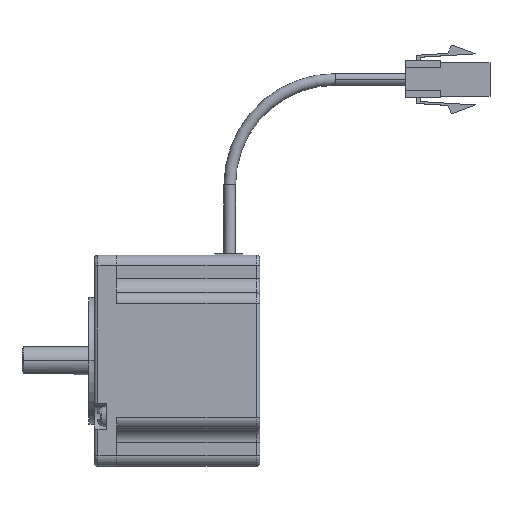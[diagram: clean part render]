
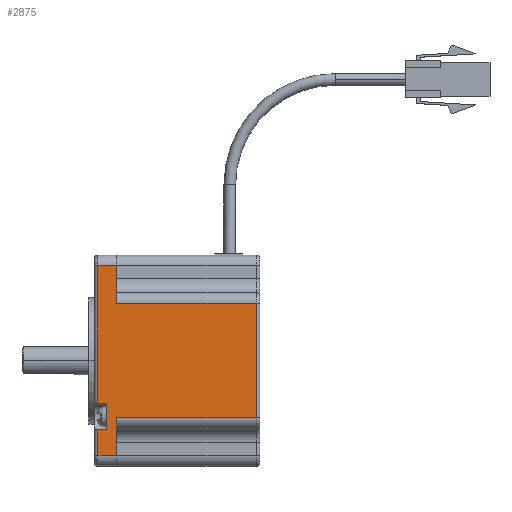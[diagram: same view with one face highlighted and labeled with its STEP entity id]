
A CAD part, top view. The second image highlights one B-rep face of the part: STEP entity #2875.
In plain terms, the highlighted planar face has unit normal (0, 0, 1) as drawn and (1, 0, 0) by its records, which use the part's own axes.
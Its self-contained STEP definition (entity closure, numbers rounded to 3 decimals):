
#20 = CARTESIAN_POINT ( 'NONE',  ( 92.176, 12.692, -211. ) ) ;
#136 = EDGE_CURVE ( 'NONE', #434, #3131, #8315, .T. ) ;
#434 = VERTEX_POINT ( 'NONE', #20 ) ;
#467 = CARTESIAN_POINT ( 'NONE',  ( 92.176, -44.308, -208.5 ) ) ;
#473 = EDGE_CURVE ( 'NONE', #5167, #6616, #7940, .T. ) ;
#612 = EDGE_CURVE ( 'NONE', #9447, #5744, #2513, .T. ) ;
#1029 = EDGE_CURVE ( 'NONE', #5167, #9447, #5636, .T. ) ;
#1043 = EDGE_CURVE ( 'NONE', #9489, #2485, #7212, .T. ) ;
#1231 = AXIS2_PLACEMENT_3D ( 'NONE', #9494, #9826, #9401 ) ;
#1234 = DIRECTION ( 'NONE',  ( 0., 1., 0. ) ) ;
#1449 = CARTESIAN_POINT ( 'NONE',  ( 92.176, -2.108, -208.5 ) ) ;
#1498 = LINE ( 'NONE', #467, #9602 ) ;
#1621 = CARTESIAN_POINT ( 'NONE',  ( 92.176, -44.308, -211. ) ) ;
#1696 = DIRECTION ( 'NONE',  ( 0., 1., 0. ) ) ;
#1908 = CARTESIAN_POINT ( 'NONE',  ( 92.176, -30.608, -205.7 ) ) ;
#1974 = CARTESIAN_POINT ( 'NONE',  ( 92.176, -41.308, -211. ) ) ;
#2421 = CARTESIAN_POINT ( 'NONE',  ( 92.176, 12.692, -205.7 ) ) ;
#2485 = VERTEX_POINT ( 'NONE', #1449 ) ;
#2513 = LINE ( 'NONE', #4706, #4405 ) ;
#2521 = LINE ( 'NONE', #6020, #6501 ) ;
#2537 = LINE ( 'NONE', #5480, #8331 ) ;
#2646 = VERTEX_POINT ( 'NONE', #3712 ) ;
#2875 = ADVANCED_FACE ( 'NONE', ( #10023 ), #7461, .T. ) ;
#3062 = ORIENTED_EDGE ( 'NONE', *, *, #1029, .F. ) ;
#3131 = VERTEX_POINT ( 'NONE', #2421 ) ;
#3214 = DIRECTION ( 'NONE',  ( 0., 0., -1. ) ) ;
#3245 = ORIENTED_EDGE ( 'NONE', *, *, #3978, .T. ) ;
#3533 = DIRECTION ( 'NONE',  ( 0., 0., -1. ) ) ;
#3606 = VERTEX_POINT ( 'NONE', #9882 ) ;
#3712 = CARTESIAN_POINT ( 'NONE',  ( 92.176, 5.292, -211. ) ) ;
#3770 = ORIENTED_EDGE ( 'NONE', *, *, #473, .T. ) ;
#3799 = VECTOR ( 'NONE', #8420, 1000. ) ;
#3803 = VECTOR ( 'NONE', #8705, 1000. ) ;
#3966 = ORIENTED_EDGE ( 'NONE', *, *, #8365, .T. ) ;
#3978 = EDGE_CURVE ( 'NONE', #2646, #434, #2537, .T. ) ;
#4042 = ORIENTED_EDGE ( 'NONE', *, *, #5703, .T. ) ;
#4207 = CARTESIAN_POINT ( 'NONE',  ( 92.176, -41.308, -205.7 ) ) ;
#4285 = ORIENTED_EDGE ( 'NONE', *, *, #5041, .T. ) ;
#4309 = EDGE_CURVE ( 'NONE', #8621, #9489, #8911, .T. ) ;
#4405 = VECTOR ( 'NONE', #3214, 1000. ) ;
#4488 = ORIENTED_EDGE ( 'NONE', *, *, #136, .T. ) ;
#4706 = CARTESIAN_POINT ( 'NONE',  ( 92.176, 1.992, -205.7 ) ) ;
#4813 = CARTESIAN_POINT ( 'NONE',  ( 92.176, -30.608, -166. ) ) ;
#4980 = ORIENTED_EDGE ( 'NONE', *, *, #1043, .T. ) ;
#5021 = DIRECTION ( 'NONE',  ( 0., 0., 1. ) ) ;
#5041 = EDGE_CURVE ( 'NONE', #3606, #2646, #2521, .T. ) ;
#5167 = VERTEX_POINT ( 'NONE', #4813 ) ;
#5264 = CARTESIAN_POINT ( 'NONE',  ( 92.176, 12.692, -212. ) ) ;
#5411 = VECTOR ( 'NONE', #3533, 1000. ) ;
#5448 = DIRECTION ( 'NONE',  ( 0., 1., 0. ) ) ;
#5480 = CARTESIAN_POINT ( 'NONE',  ( 92.176, -44.308, -211. ) ) ;
#5636 = LINE ( 'NONE', #6783, #5883 ) ;
#5703 = EDGE_CURVE ( 'NONE', #6616, #7444, #6307, .T. ) ;
#5744 = VERTEX_POINT ( 'NONE', #9252 ) ;
#5883 = VECTOR ( 'NONE', #6803, 1000. ) ;
#5893 = LINE ( 'NONE', #7907, #3803 ) ;
#6020 = CARTESIAN_POINT ( 'NONE',  ( 92.176, 5.292, -212. ) ) ;
#6159 = CARTESIAN_POINT ( 'NONE',  ( 92.176, -2.108, -211. ) ) ;
#6257 = DIRECTION ( 'NONE',  ( 0., 0., -1. ) ) ;
#6265 = VECTOR ( 'NONE', #5021, 1000. ) ;
#6307 = LINE ( 'NONE', #7705, #7873 ) ;
#6348 = ORIENTED_EDGE ( 'NONE', *, *, #7660, .T. ) ;
#6501 = VECTOR ( 'NONE', #6257, 1000. ) ;
#6616 = VERTEX_POINT ( 'NONE', #1908 ) ;
#6685 = CARTESIAN_POINT ( 'NONE',  ( 92.176, -2.108, -212. ) ) ;
#6704 = DIRECTION ( 'NONE',  ( 0., 0., 1. ) ) ;
#6783 = CARTESIAN_POINT ( 'NONE',  ( 92.176, -30.608, -166. ) ) ;
#6803 = DIRECTION ( 'NONE',  ( 0., 1., 0. ) ) ;
#6999 = LINE ( 'NONE', #7452, #5411 ) ;
#7212 = LINE ( 'NONE', #6685, #9244 ) ;
#7444 = VERTEX_POINT ( 'NONE', #4207 ) ;
#7452 = CARTESIAN_POINT ( 'NONE',  ( 92.176, -41.308, -212. ) ) ;
#7461 = PLANE ( 'NONE',  #1231 ) ;
#7660 = EDGE_CURVE ( 'NONE', #2485, #3606, #1498, .T. ) ;
#7675 = CARTESIAN_POINT ( 'NONE',  ( 92.176, 1.992, -166. ) ) ;
#7705 = CARTESIAN_POINT ( 'NONE',  ( 92.176, -44.308, -205.7 ) ) ;
#7873 = VECTOR ( 'NONE', #8472, 1000. ) ;
#7907 = CARTESIAN_POINT ( 'NONE',  ( 92.176, -44.308, -205.7 ) ) ;
#7940 = LINE ( 'NONE', #8477, #3799 ) ;
#7972 = EDGE_CURVE ( 'NONE', #7444, #8621, #6999, .T. ) ;
#8259 = ORIENTED_EDGE ( 'NONE', *, *, #7972, .T. ) ;
#8315 = LINE ( 'NONE', #5264, #6265 ) ;
#8331 = VECTOR ( 'NONE', #5448, 1000. ) ;
#8365 = EDGE_CURVE ( 'NONE', #3131, #5744, #5893, .T. ) ;
#8420 = DIRECTION ( 'NONE',  ( 0., 0., -1. ) ) ;
#8472 = DIRECTION ( 'NONE',  ( 0., -1., 0. ) ) ;
#8477 = CARTESIAN_POINT ( 'NONE',  ( 92.176, -30.608, -212. ) ) ;
#8621 = VERTEX_POINT ( 'NONE', #1974 ) ;
#8705 = DIRECTION ( 'NONE',  ( 0., -1., 0. ) ) ;
#8852 = EDGE_LOOP ( 'NONE', ( #3245, #4488, #3966, #9954, #3062, #3770, #4042, #8259, #8889, #4980, #6348, #4285 ) ) ;
#8889 = ORIENTED_EDGE ( 'NONE', *, *, #4309, .T. ) ;
#8911 = LINE ( 'NONE', #1621, #10212 ) ;
#9244 = VECTOR ( 'NONE', #6704, 1000. ) ;
#9252 = CARTESIAN_POINT ( 'NONE',  ( 92.176, 1.992, -205.7 ) ) ;
#9401 = DIRECTION ( 'NONE',  ( 0., 0., -1. ) ) ;
#9447 = VERTEX_POINT ( 'NONE', #7675 ) ;
#9489 = VERTEX_POINT ( 'NONE', #6159 ) ;
#9494 = CARTESIAN_POINT ( 'NONE',  ( 92.176, -44.308, -212. ) ) ;
#9602 = VECTOR ( 'NONE', #1234, 1000. ) ;
#9826 = DIRECTION ( 'NONE',  ( 1., 0., 0. ) ) ;
#9882 = CARTESIAN_POINT ( 'NONE',  ( 92.176, 5.292, -208.5 ) ) ;
#9954 = ORIENTED_EDGE ( 'NONE', *, *, #612, .F. ) ;
#10023 = FACE_OUTER_BOUND ( 'NONE', #8852, .T. ) ;
#10212 = VECTOR ( 'NONE', #1696, 1000. ) ;
